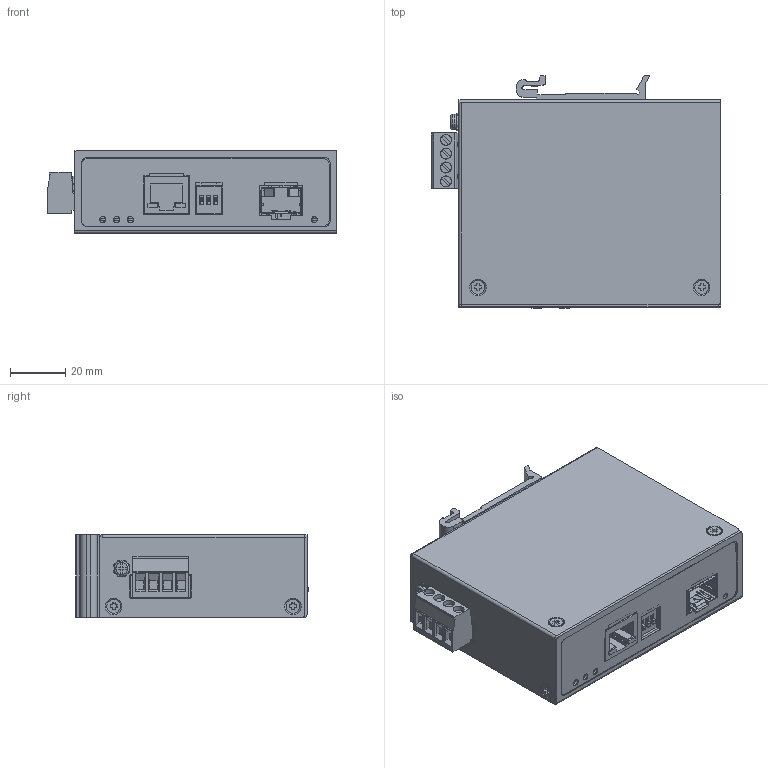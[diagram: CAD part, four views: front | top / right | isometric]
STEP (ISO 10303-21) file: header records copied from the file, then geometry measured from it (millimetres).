
FILE_DESCRIPTION(/* description */ ('STEP AP242','CAx-IF Rec.Pracs.---Representation and Presentation of Product Manufacturing Information (PMI)---4.0---2014-10-13','CAx-IF Rec.Pracs.---3D Tessellated Geometry---0.4---2014-09-14','2;1'),/* implementation_level */ '2;1');
FILE_NAME(/* name */ '684ca195de5ff55604934882',/* time_stamp */ '2025-06-13T22:09:27Z',/* author */ (''),/* organization */ (''),/* preprocessor_version */ 'ST-DEVELOPER v20',/* originating_system */ 'ONSHAPE BY PTC INC, 1.199',/* authorisation */ ' ');
FILE_SCHEMA (('AP242_MANAGED_MODEL_BASED_3D_ENGINEERING_MIM_LF { 1 0 10303 442 1 1 4 }'));
Products named in the file (39): SD-040; Flat Head Screw; LED SMD-2; Bracket; Front Housing; DIP Switch Pins; Standoff; SFP Cage; DIP Switch Selector; DIN Clip; 4 Position Connector Plug; LED SMD-4; Ground Screw; RJ-45 Connector; Lexan Label; Connector Plug; LED SMD-1; Rear Housing; DIP Switch Body; LED SMD-3; Dip Switch Component
Assembly tree (38 placements, depth 2):
  SD-040
    Flat Head Screw
    Flat Head Screw
    LED SMD-2
    Bracket
    Flat Head Screw
    Front Housing
    DIP Switch Pins
    Standoff
    DIP Switch Pins
    SFP Cage
    DIP Switch Pins
    DIP Switch Selector
    DIN Clip
    4 Position Connector Plug
    Flat Head Screw
    LED SMD-4
    Flat Head Screw
    DIP Switch Pins
    DIP Switch Selector
    Flat Head Screw
    Ground Screw
    RJ-45 Connector
    Flat Head Screw
    Lexan Label
    Connector Plug
    DIP Switch Pins
    Flat Head Screw
    LED SMD-1
    Flat Head Screw
    Standoff
    DIP Switch Selector
    Rear Housing
    Standoff
    Standoff
    DIP Switch Body
    DIP Switch Pins
    LED SMD-3
    Dip Switch Component
Bounding box: 105 x 84.3 x 30 mm (x, y, z)
Volume: 38728.8 mm3; surface area: 71503.1 mm2
Topology: 38 solids, 42 shells, 2639 faces, 7150 edges, 4641 vertices
Faces by surface type: plane 1693, cylinder 789, torus 78, cone 49, sphere 28, bspline 2
Full cylindrical faces by diameter (mm): 0.6 x1, 1.4 x4, 1.5 x1, 2 x27, 2.2 x4, 2.3 x3, 2.4 x9, 2.449 x4, 2.459 x4, 2.8 x6, 2.9 x8, 3 x6, 3.78 x4, 3.783 x4, 3.99 x4, 4 x21, 4.2 x8, 5 x9, 5.5 x1
Entity records: 84431 total; most frequent: CARTESIAN_POINT 16772, DIRECTION 13859, ORIENTED_EDGE 13654, EDGE_CURVE 6827, LINE 5023, VECTOR 5023, VERTEX_POINT 4539, AXIS2_PLACEMENT_3D 4418
